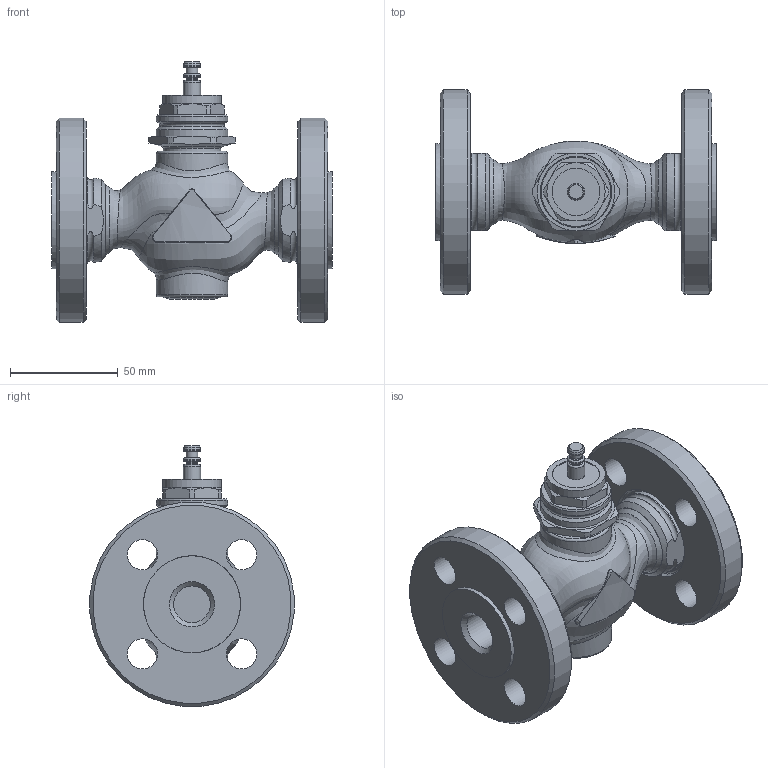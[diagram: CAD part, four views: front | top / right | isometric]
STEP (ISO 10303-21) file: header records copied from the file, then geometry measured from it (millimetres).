
FILE_DESCRIPTION(/* description */ (''),/* implementation_level */ '2;1');
FILE_NAME(/* name */ 'rv111s_dn15_2_F.stp',/* time_stamp */ '2012-02-28T10:53:57+01:00',/* author */ ('KLIMES'),/* organization */ ('LDM'),/* preprocessor_version */ 'ST-DEVELOPER v11',/* originating_system */ 'SIEMENS PLM Software NX 7.0',/* authorisation */ '');
FILE_SCHEMA (('CONFIG_CONTROL_DESIGN'));
Length unit declared in the file: millimetre
Products named in the file (1): klimEAFB3d5r
Bounding box: 130 x 94.64 x 120.87 mm (x, y, z)
Volume: 343022.8 mm3; surface area: 66457 mm2
Topology: 3 solids, 3 shells, 193 faces, 446 edges, 281 vertices
Faces by surface type: cylinder 57, plane 52, cone 44, bspline 22, torus 18
Full cylindrical faces by diameter (mm): 5.3 x1, 5.5 x1, 8 x3, 14 x8, 17 x2, 22 x1, 26.5 x2, 27 x1, 30.291 x2, 33 x4, 33.249 x2, 33.5 x2, 45 x2, 95 x2
Entity records: 10654 total; most frequent: CARTESIAN_POINT 6811, DIRECTION 762, ORIENTED_EDGE 666, AXIS2_PLACEMENT_3D 353, EDGE_CURVE 333, EDGE_LOOP 315, VERTEX_POINT 248, FACE_BOUND 226
